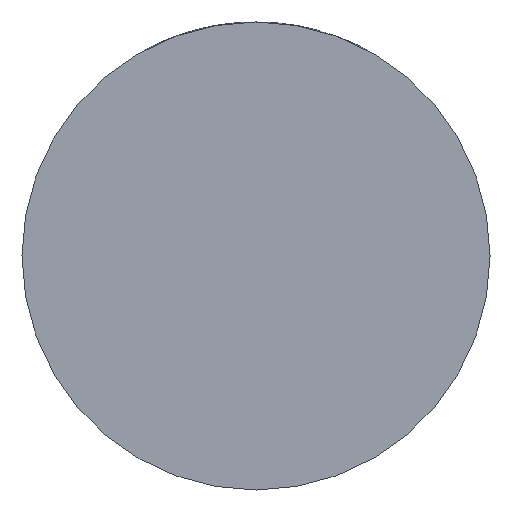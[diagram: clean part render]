
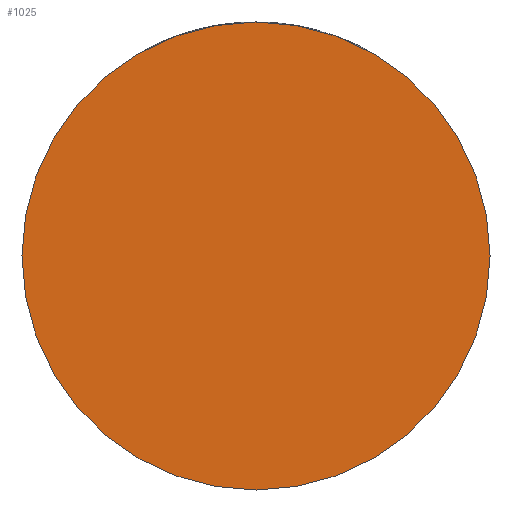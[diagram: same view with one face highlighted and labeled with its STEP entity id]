
A CAD part, front view. The second image highlights one B-rep face of the part: STEP entity #1025.
In plain terms, the highlighted planar face has unit normal (0, -1, 0).
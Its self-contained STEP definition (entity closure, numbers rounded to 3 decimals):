
#153 = PLANE ( 'NONE',  #1660 ) ;
#309 = CARTESIAN_POINT ( 'NONE',  ( 0., -39., 0. ) ) ;
#550 = CARTESIAN_POINT ( 'NONE',  ( 0., -39., 0. ) ) ;
#779 = DIRECTION ( 'NONE',  ( 0., -1., 0. ) ) ;
#854 = FACE_OUTER_BOUND ( 'NONE', #2487, .T. ) ;
#1001 = ORIENTED_EDGE ( 'NONE', *, *, #2185, .T. ) ;
#1025 = ADVANCED_FACE ( 'NONE', ( #854 ), #153, .T. ) ;
#1465 = EDGE_CURVE ( 'NONE', #3198, #2908, #2193, .T. ) ;
#1660 = AXIS2_PLACEMENT_3D ( 'NONE', #550, #2596, #3326 ) ;
#1832 = DIRECTION ( 'NONE',  ( 1., 0., 0. ) ) ;
#1975 = CIRCLE ( 'NONE', #3821, 39. ) ;
#2137 = ORIENTED_EDGE ( 'NONE', *, *, #1465, .T. ) ;
#2152 = CARTESIAN_POINT ( 'NONE',  ( 39., -39., 0. ) ) ;
#2185 = EDGE_CURVE ( 'NONE', #2908, #3198, #1975, .T. ) ;
#2193 = CIRCLE ( 'NONE', #2788, 39. ) ;
#2471 = DIRECTION ( 'NONE',  ( 0., -1., 0. ) ) ;
#2487 = EDGE_LOOP ( 'NONE', ( #2137, #1001 ) ) ;
#2596 = DIRECTION ( 'NONE',  ( 0., -1., 0. ) ) ;
#2788 = AXIS2_PLACEMENT_3D ( 'NONE', #309, #2471, #3881 ) ;
#2849 = CARTESIAN_POINT ( 'NONE',  ( -39., -39., 0. ) ) ;
#2908 = VERTEX_POINT ( 'NONE', #2152 ) ;
#3198 = VERTEX_POINT ( 'NONE', #2849 ) ;
#3326 = DIRECTION ( 'NONE',  ( 1., 0., 0. ) ) ;
#3821 = AXIS2_PLACEMENT_3D ( 'NONE', #4286, #779, #1832 ) ;
#3881 = DIRECTION ( 'NONE',  ( 1., 0., 0. ) ) ;
#4286 = CARTESIAN_POINT ( 'NONE',  ( 0., -39., 0. ) ) ;
